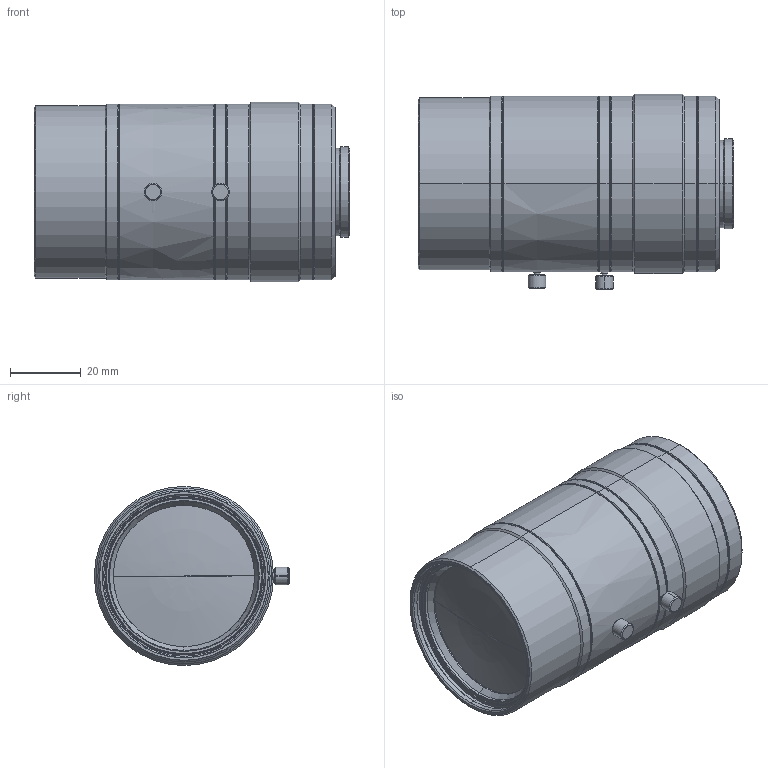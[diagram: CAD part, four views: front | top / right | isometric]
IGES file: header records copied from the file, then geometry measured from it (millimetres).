
Start section: SolidWorks IGES file using analytic representation for surfaces
Global section: file name: \\192.168.200.11\Development\3 製品\1 標準品\01 マクロレンズ\01 VS-LLD series\300 VS-LLD30\10.3D外観モデル\VS-LLD30.IGS; native system: SolidWorks 2016; preprocessor: SolidWorks 2016; author: miura_vst; date: 160513.150456; units: millimetre
Bounding box: 88.97 x 55.05 x 50.5 mm (x, y, z)
Surface area: 23606.5 mm2 (no closed solid volume)
Topology: 0 solids, 0 shells, 168 faces, 3108 edges, 3106 vertices
Faces by surface type: revolution 144, bspline 24
